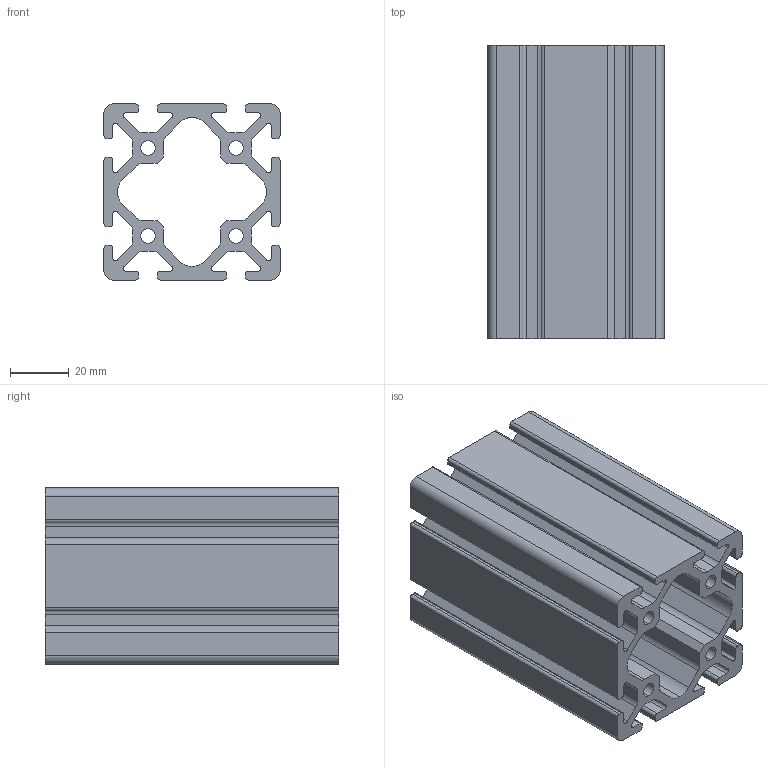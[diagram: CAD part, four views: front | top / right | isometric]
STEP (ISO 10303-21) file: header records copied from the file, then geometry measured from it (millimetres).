
FILE_DESCRIPTION (( 'STEP AP203' ), '1' );
FILE_NAME ('0106P6060S.STEP', '2024-02-27T14:19:57', ( 'Windows-Benutzer' ), ( '' ), 'SwSTEP 2.0', 'SolidWorks 2023', '' );
FILE_SCHEMA (( 'CONFIG_CONTROL_DESIGN' ));
Length unit declared in the file: millimetre
Products named in the file (1): 0106P6060S
Bounding box: 60 x 100 x 60 mm (x, y, z)
Volume: 129214.1 mm3; surface area: 73784.7 mm2
Topology: 1 solids, 1 shells, 183 faces, 543 edges, 362 vertices
Faces by surface type: cylinder 93, plane 90
Entity records: 6280 total; most frequent: DIRECTION 1097, CARTESIAN_POINT 1089, ORIENTED_EDGE 1086, EDGE_CURVE 543, AXIS2_PLACEMENT_3D 370, VERTEX_POINT 362, VECTOR 357, LINE 357
